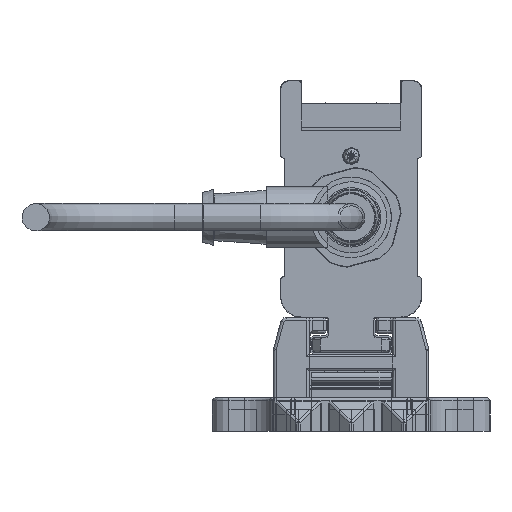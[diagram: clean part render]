
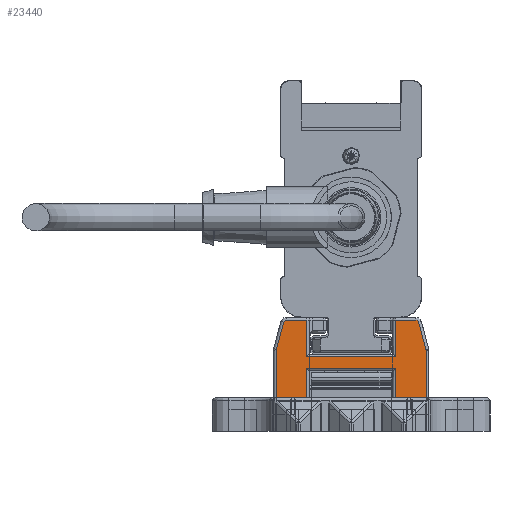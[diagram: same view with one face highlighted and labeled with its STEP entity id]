
A CAD part, left-side view. The second image highlights one B-rep face of the part: STEP entity #23440.
In plain terms, the highlighted planar face has unit normal (-1, 0, 0).
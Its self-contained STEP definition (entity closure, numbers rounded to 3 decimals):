
#23440=ADVANCED_FACE('', (#23450), #23460, .T.);
#165170=AXIS2_PLACEMENT_3D('Ax2Pl3d', #165180, #165190, #165200);
#165410=AXIS2_PLACEMENT_3D('Ax2Pl3d', #165420, #165430, #165440);
#170290=AXIS2_PLACEMENT_3D('Ax2Pl3d', #170300, #170310, #170320);
#175370=AXIS2_PLACEMENT_3D('Ax2Pl3d', #175380, #175390, #175400);
#185050=AXIS2_PLACEMENT_3D('Ax2Pl3d', #185060, #185070, #185080);
#714080=CARTESIAN_POINT('', (-747.669,-4006.345,
331.37));
#165180=CARTESIAN_POINT('HicPkt', (-747.669,-4005.379,
331.111));
#714090=CARTESIAN_POINT('', (-747.669,-4006.379,331.111)
);
#714100=CARTESIAN_POINT('', (-747.669,-4005.037,
336.255));
#714120=CARTESIAN_POINT('', (-747.669,-4005.037,
336.255));
#714150=CARTESIAN_POINT('', (-747.669,-4004.554,
336.625));
#165420=CARTESIAN_POINT('HicPkt', (-747.669,-4004.554,
336.125));
#714370=CARTESIAN_POINT('', (-747.669,-4006.379,322.625)
);
#714380=CARTESIAN_POINT('', (-747.669,-4000.881,322.625)
);
#714390=CARTESIAN_POINT('', (-747.669,-4000.881,322.625)
);
#714470=CARTESIAN_POINT('', (-747.669,-3984.881,322.625)
);
#714480=CARTESIAN_POINT('', (-747.669,-3979.383,322.625)
);
#714490=CARTESIAN_POINT('', (-747.669,-3979.383,322.625)
);
#170300=CARTESIAN_POINT('HicPkt', (-747.669,-3981.209,
336.125));
#716960=CARTESIAN_POINT('', (-747.669,-3980.726,
336.255));
#716970=CARTESIAN_POINT('', (-747.669,-3981.209,
336.625));
#716980=CARTESIAN_POINT('', (-747.669,-4000.881,
330.025));
#716990=CARTESIAN_POINT('', (-747.669,-3984.881,
330.025));
#717000=CARTESIAN_POINT('', (-747.669,-4000.881,
330.025));
#717160=CARTESIAN_POINT('', (-747.669,-4000.881,
328.005));
#717170=CARTESIAN_POINT('', (-747.669,-3984.881,
328.005));
#717180=CARTESIAN_POINT('', (-747.669,-3984.881,
328.005));
#717190=CARTESIAN_POINT('', (-747.669,-4000.881,
328.005));
#717210=CARTESIAN_POINT('', (-747.669,-3984.881,322.625)
);
#717220=CARTESIAN_POINT('', (-747.669,-3984.881,
330.025));
#717230=CARTESIAN_POINT('', (-747.669,-3984.881,
336.625));
#718080=CARTESIAN_POINT('', (-747.669,-3984.881,
336.625));
#718090=CARTESIAN_POINT('', (-747.669,-3980.726,
336.255));
#718100=CARTESIAN_POINT('', (-747.669,-3979.417,
331.37));
#718290=CARTESIAN_POINT('', (-747.669,-3979.383,331.111)
);
#718300=CARTESIAN_POINT('', (-747.669,-3979.383,331.111)
);
#175380=CARTESIAN_POINT('HicPkt', (-747.669,-3980.383,
331.111));
#719110=CARTESIAN_POINT('', (-747.669,-4006.379,331.111)
);
#185060=CARTESIAN_POINT('HicPkt', (-747.669,-4004.554,
336.625));
#720910=CARTESIAN_POINT('', (-747.669,-4000.881,
336.625));
#720920=CARTESIAN_POINT('', (-747.669,-4000.881,
336.625));
#720930=CARTESIAN_POINT('', (-747.669,-4000.881,
336.625));
#828200=CIRCLE('Circle', #165170, 1.);
#828240=CIRCLE('Circle', #165410, 0.5);
#828820=CIRCLE('Circle', #170290, 0.5);
#829350=CIRCLE('Circle', #175370, 1.);
#165190=DIRECTION('Axis', (-1.,0.,
0.));
#165200=DIRECTION('RefDirection', (0.,
0.,-1.));
#1155220=DIRECTION('', (0.,0.259,
0.966));
#165430=DIRECTION('Axis', (-1.,0.,
0.));
#165440=DIRECTION('RefDirection', (0.,
0.,-1.));
#1155330=DIRECTION('', (0.,1.,0.));
#1155370=DIRECTION('', (0.,1.,0.));
#170310=DIRECTION('Axis', (1.,0.,
0.));
#170320=DIRECTION('RefDirection', (0.,
0.,-1.));
#1156560=DIRECTION('', (0.,-1.,0.));
#1156660=DIRECTION('', (0.,1.,0.));
#1156670=DIRECTION('', (0.,0.,1.));
#1156690=DIRECTION('', (0.,0.,-1.));
#1156700=DIRECTION('', (0.,0.,-1.));
#1157130=DIRECTION('', (0.,-1.,0.));
#1157140=DIRECTION('', (0.,-0.259,0.966));
#1157230=DIRECTION('', (0.,0.,1.));
#175390=DIRECTION('Axis', (1.,0.,
0.));
#175400=DIRECTION('RefDirection', (0.,
0.,-1.));
#1157600=DIRECTION('', (0.,0.,1.));
#185070=DIRECTION('Axis', (-1.,0.,
0.));
#185080=DIRECTION('RefDirection', (0.,
0.,-1.));
#1158440=DIRECTION('', (0.,1.,0.));
#1158450=DIRECTION('', (0.,0.,1.));
#1233130=EDGE_CURVE('', #1233140, #1233120, #828200, .T.);
#1233190=EDGE_CURVE('', #1233120, #1233170, #1233200, .T.);
#1233260=EDGE_CURVE('', #1233170, #1233250, #828240, .T.);
#1233710=EDGE_CURVE('', #1233700, #1233720, #1233730, .T.);
#1233870=EDGE_CURVE('', #1233860, #1233880, #1233890, .T.);
#1238230=EDGE_CURVE('', #1238240, #1238250, #828820, .T.);
#1238280=EDGE_CURVE('', #1238290, #1238300, #1238310, .T.);
#1238650=EDGE_CURVE('', #1238630, #1238660, #1238670, .T.);
#1238700=EDGE_CURVE('', #1233720, #1238630, #1238710, .T.);
#1238740=EDGE_CURVE('', #1238660, #1233860, #1238750, .T.);
#1238760=EDGE_CURVE('', #1238770, #1238290, #1238780, .T.);
#1240600=EDGE_CURVE('', #1238250, #1238770, #1240610, .T.);
#1240670=EDGE_CURVE('', #1240680, #1238240, #1240690, .T.);
#1241110=EDGE_CURVE('', #1233880, #1241120, #1241130, .T.);
#1241150=EDGE_CURVE('', #1241120, #1240680, #829350, .T.);
#1242860=EDGE_CURVE('', #1233700, #1233140, #1242870, .T.);
#1246670=EDGE_CURVE('', #1233250, #1246680, #1246690, .T.);
#1246700=EDGE_CURVE('', #1238300, #1246680, #1246710, .T.);
#1483650=EDGE_LOOP('Edge_loop', (#1483660,#1483670,#1483680,#1483690,
#1483700,#1483710,#1483720,#1483730,#1483740,#1483750,#1483760,
#1483770,#1483780,#1483790,#1483800,#1483810,#1483820,#1483830));
#23450=FACE_OUTER_BOUND('Face_outer_bound', #1483650, .T.);
#1233200=LINE('Line', #714120, #1704690);
#1233730=LINE('Line', #714380, #1704800);
#1233890=LINE('Line', #714480, #1704840);
#1238310=LINE('Line', #716980, #1706030);
#1238670=LINE('Line', #717170, #1706130);
#1238710=LINE('Line', #717190, #1706140);
#1238750=LINE('Line', #717210, #1706160);
#1238780=LINE('Line', #717220, #1706170);
#1240610=LINE('Line', #718080, #1706600);
#1240690=LINE('Line', #718090, #1706610);
#1241130=LINE('Line', #718290, #1706700);
#1242870=LINE('Line', #719110, #1707070);
#1246690=LINE('Line', #720910, #1707910);
#1246710=LINE('Line', #720930, #1707920);
#1483660=ORIENTED_EDGE('', *, *, #1246670, .T.);
#1483670=ORIENTED_EDGE('', *, *, #1246700, .F.);
#1483680=ORIENTED_EDGE('', *, *, #1238280, .F.);
#1483690=ORIENTED_EDGE('', *, *, #1238760, .F.);
#1483700=ORIENTED_EDGE('', *, *, #1240600, .F.);
#1483710=ORIENTED_EDGE('', *, *, #1238230, .F.);
#1483720=ORIENTED_EDGE('', *, *, #1240670, .F.);
#1483730=ORIENTED_EDGE('', *, *, #1241150, .F.);
#1483740=ORIENTED_EDGE('', *, *, #1241110, .F.);
#1483750=ORIENTED_EDGE('', *, *, #1233870, .F.);
#1483760=ORIENTED_EDGE('', *, *, #1238740, .F.);
#1483770=ORIENTED_EDGE('', *, *, #1238650, .F.);
#1483780=ORIENTED_EDGE('', *, *, #1238700, .F.);
#1483790=ORIENTED_EDGE('', *, *, #1233710, .F.);
#1483800=ORIENTED_EDGE('', *, *, #1242860, .T.);
#1483810=ORIENTED_EDGE('', *, *, #1233130, .T.);
#1483820=ORIENTED_EDGE('', *, *, #1233190, .T.);
#1483830=ORIENTED_EDGE('', *, *, #1233260, .T.);
#23460=PLANE('Plane', #185050);
#1704690=VECTOR('', #1155220, 5.057);
#1704800=VECTOR('', #1155330, 5.498);
#1704840=VECTOR('', #1155370, 5.498);
#1706030=VECTOR('', #1156560, 16.);
#1706130=VECTOR('', #1156660, 16.);
#1706140=VECTOR('', #1156670, 5.38);
#1706160=VECTOR('', #1156690, 5.38);
#1706170=VECTOR('', #1156700, 6.6);
#1706600=VECTOR('', #1157130, 3.672);
#1706610=VECTOR('', #1157140, 5.057);
#1706700=VECTOR('', #1157230, 8.486);
#1707070=VECTOR('', #1157600, 8.486);
#1707910=VECTOR('', #1158440, 3.672);
#1707920=VECTOR('', #1158450, 6.6);
#1233120=VERTEX_POINT('', #714080);
#1233140=VERTEX_POINT('', #714090);
#1233170=VERTEX_POINT('', #714100);
#1233250=VERTEX_POINT('', #714150);
#1233700=VERTEX_POINT('', #714370);
#1233720=VERTEX_POINT('', #714390);
#1233860=VERTEX_POINT('', #714470);
#1233880=VERTEX_POINT('', #714490);
#1238240=VERTEX_POINT('', #716960);
#1238250=VERTEX_POINT('', #716970);
#1238290=VERTEX_POINT('', #716990);
#1238300=VERTEX_POINT('', #717000);
#1238630=VERTEX_POINT('', #717160);
#1238660=VERTEX_POINT('', #717180);
#1238770=VERTEX_POINT('', #717230);
#1240680=VERTEX_POINT('', #718100);
#1241120=VERTEX_POINT('', #718300);
#1246680=VERTEX_POINT('', #720920);
